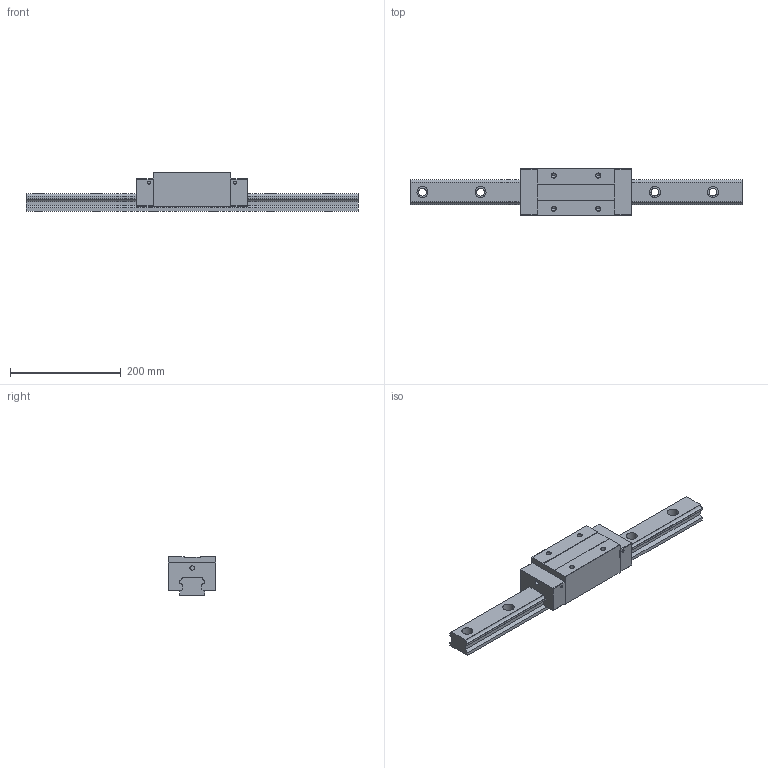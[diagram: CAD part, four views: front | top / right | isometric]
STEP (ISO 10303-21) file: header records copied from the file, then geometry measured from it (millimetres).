
FILE_DESCRIPTION (( 'STEP AP203' ), '1' );
FILE_NAME ('TRH45VE-DZ.STEP', '2024-07-10T08:35:15', ( '' ), ( '' ), 'SwSTEP 2.0', 'SolidWorks 2022', '' );
FILE_SCHEMA (( 'CONFIG_CONTROL_DESIGN' ));
Length unit declared in the file: millimetre
Products named in the file (1): TRH45VE-DZ
Bounding box: 600 x 85.5 x 70 mm (x, y, z)
Volume: 1509799.7 mm3; surface area: 186246.6 mm2
Topology: 2 solids, 2 shells, 180 faces, 472 edges, 304 vertices
Faces by surface type: plane 84, cylinder 80, cone 16
Entity records: 5607 total; most frequent: DIRECTION 994, CARTESIAN_POINT 949, ORIENTED_EDGE 928, EDGE_CURVE 464, AXIS2_PLACEMENT_3D 349, VERTEX_POINT 304, LINE 296, VECTOR 296
